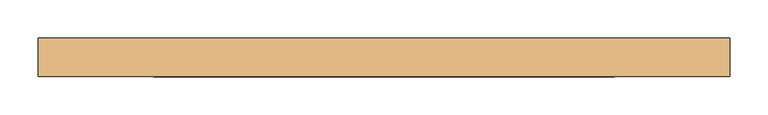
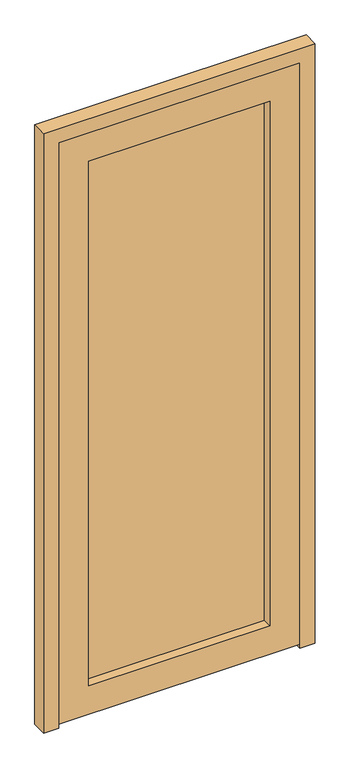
"""IFC4 building model written with IfcOpenShell, lengths in millimetres: door geometry, Dr_Дверь_v2.1 : ДВСГ Брг 21-9_с вент решеткой."""

import ifcopenshell
import ifcopenshell.guid

model = None  # the IFC model being written
_history = None  # IfcOwnerHistory: only IFC2X3 demands one
_inside = {}  # id of a spatial element -> (the spatial element, [elements in it])
_under = {}  # id of a project, library or spatial element -> (it, [spatial elements below it])
_declared = {}  # id of a project -> (the project, [libraries it declares])
_typed = {}  # id of a type object -> (the type object, [elements of that type])
_made_of = {}  # id of a material, layer set ... -> (it, [elements and type objects made of it])


def new_model(schema):
    """Start an empty IFC model of exactly this schema.

    Asked for "IFC4X3", IfcOpenShell would pick the latest addendum, in which some entities
    have other attributes; the version numbers below select the first issue.
    IFC2X3 requires an IfcOwnerHistory on every rooted entity: one is made here for all.
    """
    global model, _history
    if schema == "IFC4X3":
        model = ifcopenshell.file(schema_version=(4, 3, 0, 0))
    else:
        model = ifcopenshell.file(schema=schema)
    _inside.clear()
    _under.clear()
    _declared.clear()
    _typed.clear()
    _made_of.clear()
    _history = None
    if model.schema == "IFC2X3":
        org = make("IfcOrganization", Name="unknown")
        user = make(
            "IfcPersonAndOrganization",
            ThePerson=make("IfcPerson", FamilyName="unknown"),
            TheOrganization=org,
        )
        app = make(
            "IfcApplication",
            ApplicationDeveloper=org,
            Version="unknown",
            ApplicationFullName="unknown",
            ApplicationIdentifier="unknown",
        )
        _history = make(
            "IfcOwnerHistory",
            OwningUser=user,
            OwningApplication=app,
            ChangeAction="ADDED",
            CreationDate=0,
        )
    return model


def make(cls, **values):
    """One entity of the class cls with the attributes given. An attribute that is None is left unset."""
    return model.create_entity(
        cls, **{name: value for name, value in values.items() if value is not None}
    )


def rooted(cls, **values):
    """An entity with a GlobalId (a new one), such as an element, a storey or a relation."""
    return make(cls, GlobalId=ifcopenshell.guid.new(), OwnerHistory=_history, **values)


def si_unit(unit_type, name, prefix=None):
    """IfcSIUnit, for example si_unit("LENGTHUNIT", "METRE", prefix="MILLI")."""
    return make("IfcSIUnit", UnitType=unit_type, Prefix=prefix, Name=name)


def assignment(units):
    """IfcUnitAssignment: the units of a project."""
    return None if units is None else make("IfcUnitAssignment", Units=units)


def point(xyz):
    """IfcCartesianPoint."""
    return None if xyz is None else make("IfcCartesianPoint", Coordinates=xyz)


def direction(xyz):
    """IfcDirection."""
    return None if xyz is None else make("IfcDirection", DirectionRatios=xyz)


def frame(location, z_axis=None, x_axis=None):
    """IfcAxis2Placement3D, a coordinate frame: its origin and axes. An axis left out is left unset."""
    return make(
        "IfcAxis2Placement3D",
        Location=point(location),
        Axis=direction(z_axis),
        RefDirection=direction(x_axis),
    )


def origin():
    """The frame at (0, 0, 0) with its axes left unset."""
    return frame((0.0, 0.0, 0.0))


def place(relative_to, where):
    """IfcLocalPlacement: puts the frame where relative to a parent placement (None: the world)."""
    return make(
        "IfcLocalPlacement", PlacementRelTo=relative_to, RelativePlacement=where
    )


def context(
    kind, dimensions, precision=None, world=None, true_north=None, identifier=None
):
    """IfcGeometricRepresentationContext, for example the 3D "Model" context."""
    return make(
        "IfcGeometricRepresentationContext",
        ContextIdentifier=identifier,
        ContextType=kind,
        CoordinateSpaceDimension=dimensions,
        Precision=precision,
        WorldCoordinateSystem=world,
        TrueNorth=true_north,
    )


def project(units=None, contexts=None):
    """IfcProject with its units and contexts."""
    return rooted(
        "IfcProject",
        Name="project",
        RepresentationContexts=contexts,
        UnitsInContext=assignment(units),
    )


def spatial(cls, under=None, at=None, **own):
    """A site, building, storey or space (cls), placed at a placement, below another one or the project."""
    s = rooted(cls, ObjectPlacement=at, **own)
    if under is not None:
        _under.setdefault(under.id(), (under, []))[1].append(s)
    return s


def polyline(points):
    """IfcPolyline through the points."""
    return make("IfcPolyline", Points=[point(p) for p in points])


def outline(outer, holes=None, kind="AREA"):
    """IfcArbitraryClosedProfileDef: a profile drawn as a closed curve; with holes, ...WithVoids."""
    if holes is None:
        return make("IfcArbitraryClosedProfileDef", ProfileType=kind, OuterCurve=outer)
    return make(
        "IfcArbitraryProfileDefWithVoids",
        ProfileType=kind,
        OuterCurve=outer,
        InnerCurves=holes,
    )


def extrude(swept, where, along, depth):
    """IfcExtrudedAreaSolid: the profile swept, set in the frame where, extruded along a direction by depth."""
    return make(
        "IfcExtrudedAreaSolid",
        SweptArea=swept,
        Position=where,
        ExtrudedDirection=direction(along),
        Depth=depth,
    )


def shape(context_of_items, identifier, shape_type, items):
    """IfcShapeRepresentation: the items that make up one representation, for example the "Body"."""
    return make(
        "IfcShapeRepresentation",
        ContextOfItems=context_of_items,
        RepresentationIdentifier=identifier,
        RepresentationType=shape_type,
        Items=items,
    )


def source(mapping_origin, context_of_items, identifier, shape_type, items):
    """IfcRepresentationMap: a shape defined once, which mapped items show again and again."""
    return make(
        "IfcRepresentationMap",
        MappingOrigin=mapping_origin,
        MappedRepresentation=shape(context_of_items, identifier, shape_type, items),
    )


def transform(
    local_origin,
    x_axis=None,
    y_axis=None,
    z_axis=None,
    scale=None,
    scale2=None,
    scale3=None,
    uniform=True,
):
    """IfcCartesianTransformationOperator3D, or its non-uniform kind. x_axis, y_axis, z_axis: its Axis1, 2, 3."""
    if uniform:
        return make(
            "IfcCartesianTransformationOperator3D",
            Axis1=direction(x_axis),
            Axis2=direction(y_axis),
            LocalOrigin=point(local_origin),
            Scale=scale,
            Axis3=direction(z_axis),
        )
    return make(
        "IfcCartesianTransformationOperator3DnonUniform",
        Axis1=direction(x_axis),
        Axis2=direction(y_axis),
        LocalOrigin=point(local_origin),
        Scale=scale,
        Axis3=direction(z_axis),
        Scale2=scale2,
        Scale3=scale3,
    )


def mapped(mapping_source, mapping_target):
    """IfcMappedItem: shows the shape of a source again, moved by a transform."""
    return make(
        "IfcMappedItem", MappingSource=mapping_source, MappingTarget=mapping_target
    )


def made_of(thing, what):
    """Note that an element or type object is made of a material, layer set ...; save() writes the relation."""
    if what is not None:
        _made_of.setdefault(what.id(), (what, []))[1].append(thing)
    return thing


def element(
    cls,
    number,
    at=None,
    inside=None,
    cuts=None,
    type_object=None,
    material=None,
    context=None,
    identifier="Body",
    shape_type=None,
    held_by="IfcProductDefinitionShape",
    body=None,
    shapes=None,
    **own,
):
    """One element of the class cls, such as IfcWall. Its Tag is "e" and its number.

    at: its placement. inside: the storey or other place that contains it. cuts: it is an
    opening in that element (IfcRelVoidsElement). A single representation is given by context,
    identifier, shape_type and body (its items); several are given by shapes. held_by: the class
    of the entity that holds the representations. save() writes the other relations.
    """
    e = rooted(cls, Tag="e%d" % number, ObjectPlacement=at, **own)
    if body is not None:
        shapes = [shape(context, identifier, shape_type, body)]
    if shapes is not None:
        e.Representation = make(held_by, Representations=shapes)
    if inside is not None:
        _inside.setdefault(inside.id(), (inside, []))[1].append(e)
    if cuts is not None:
        rooted(
            "IfcRelVoidsElement", RelatingBuildingElement=cuts, RelatedOpeningElement=e
        )
    if type_object is not None:
        _typed.setdefault(type_object.id(), (type_object, []))[1].append(e)
    return made_of(e, material)


def aggregate(whole, parts):
    """IfcRelAggregates: a whole, such as a stair, and the parts it consists of."""
    return rooted("IfcRelAggregates", RelatingObject=whole, RelatedObjects=parts)


def save(model, path):
    """Write the relations noted so far, then the file.

    IfcRelAggregates (storeys below a building ...), IfcRelContainedInSpatialStructure (elements
    in a storey), IfcRelDefinesByType, IfcRelAssociatesMaterial and IfcRelDeclares: one each for
    every whole, place, type object, material and project.
    """
    for whole, parts in _under.values():
        aggregate(whole, parts)
    for where, things in _inside.values():
        rooted(
            "IfcRelContainedInSpatialStructure",
            RelatedElements=things,
            RelatingStructure=where,
        )
    for kind, things in _typed.values():
        rooted("IfcRelDefinesByType", RelatedObjects=things, RelatingType=kind)
    for what, things in _made_of.values():
        rooted("IfcRelAssociatesMaterial", RelatedObjects=things, RelatingMaterial=what)
    for by, libraries in _declared.values():
        rooted("IfcRelDeclares", RelatingContext=by, RelatedDefinitions=libraries)
    model.write(path)


def door_92008d80(model_context):
    return source(origin(), model_context, "Body", "SweptSolid", [
        extrude(outline(polyline([(0.0, -275.0), (2050.0, -275.0), (2050.0, 525.0), (0.0, 525.0), (0.0, 575.0), (2100.0, 575.0), (2100.0, -325.0), (0.0, -325.0), (0.0, -275.0)])), frame((0.0, -60.0, 0.0), z_axis=(0.0, 1.0, 0.0), x_axis=(0.0, 0.0, 1.0)), (0.0, 0.0, 1.0), 50.0),
        extrude(outline(polyline([(2050.0, 525.0), (2050.0, -275.0005417), (14.0, -275.0005417), (14.0, 525.0), (2050.0, 525.0)]), holes=[polyline([(114.0, 425.0), (114.0, -175.0), (1950.0, -175.0), (1950.0, 425.0), (114.0, 425.0)])]), frame((0.0, -60.0, 0.0), z_axis=(0.0, 1.0, 0.0), x_axis=(0.0, 0.0, 1.0)), (0.0, 0.0, 1.0), 50.0),
        extrude(outline(polyline([(-175.0, -30.0), (-175.0, -25.0), (425.0, -25.0), (425.0, -30.0), (-175.0, -30.0)])), frame((0.0, 0.0, 114.0), z_axis=(0.0, 0.0, 1.0), x_axis=(1.0, 0.0, 0.0)), (0.0, 0.0, 1.0), 1836.0),
    ])


if __name__ == "__main__":
    model = new_model("IFC4")
    model_context = context("Model", 3, world=origin())
    ifc_project = project(units=[si_unit("LENGTHUNIT", "METRE", prefix="MILLI")], contexts=[model_context])
    site = spatial("IfcSite", under=ifc_project)
    building = spatial("IfcBuilding", under=site)
    placement = place(None, origin())
    door_shape = door_92008d80(model_context)
    element("IfcDoor", 1, ObjectType="Dr_Дверь_v2.1 : ДВСГ Брг 21-9_с вент решеткой", at=placement, inside=building, context=model_context, shape_type="MappedRepresentation", body=[
        mapped(door_shape, transform((0.0, 0.0, 0.0), x_axis=(1.0, 0.0, 0.0), y_axis=(0.0, 1.0, 0.0), z_axis=(0.0, 0.0, 1.0))),
    ])
    save(model, "model.ifc")
